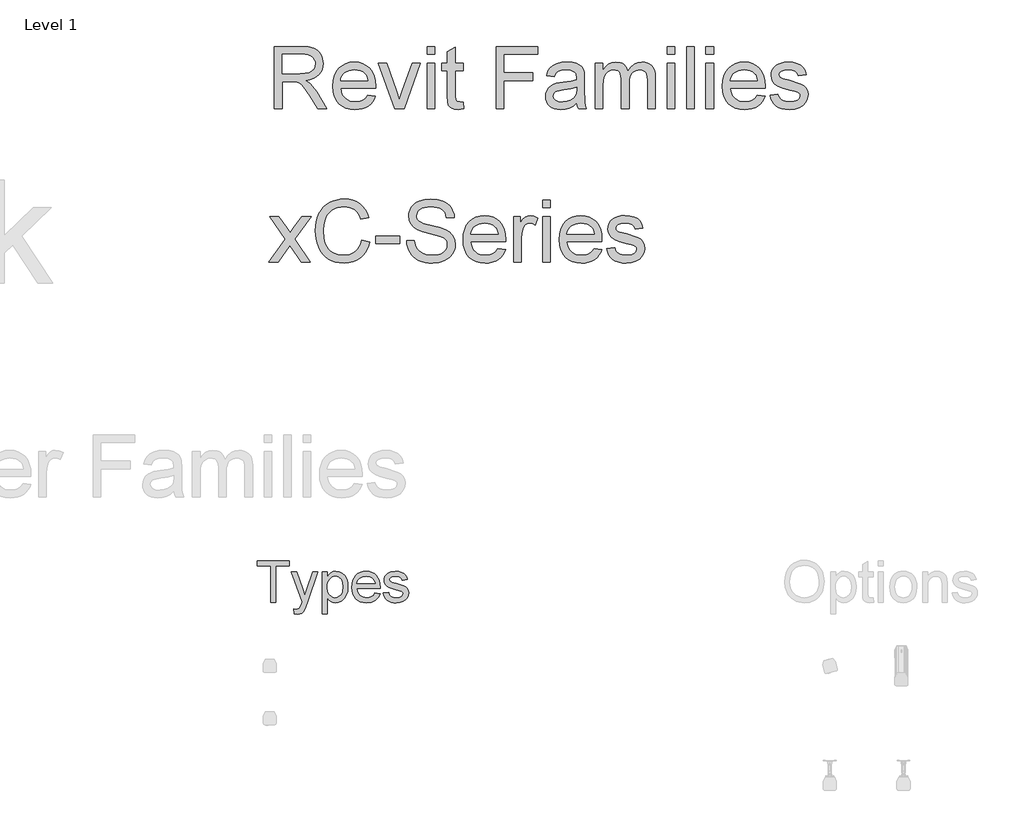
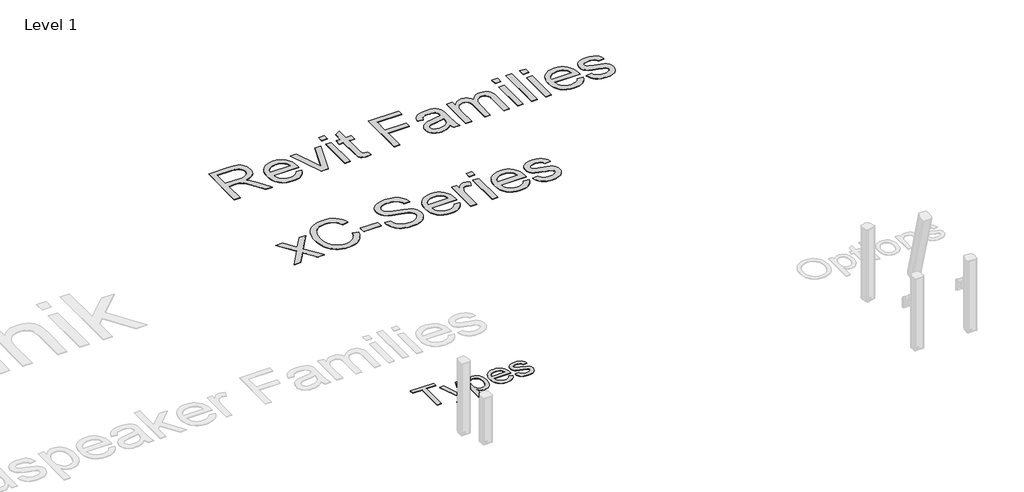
# One storey, part 7 of 8: 2 proxies.
"""IFC4 building model written with IfcOpenShell, lengths in millimetres."""

from ifc_helpers import new_model, si_unit, origin, origin_with_axes, place, context, project, spatial, polyline, outline, extrude, element, save

model = new_model("IFC4")

# Units and contexts
model_context = context("Model", 3, world=origin())
ifc_project = project(units=[si_unit("LENGTHUNIT", "METRE", prefix="MILLI")], contexts=[model_context])

# Site, building, storey
site = spatial("IfcSite", under=ifc_project)
building = spatial("IfcBuilding", under=site)
storey = spatial("IfcBuildingStorey", under=building, Name="Level 1", Elevation=0.0)

# Proxies
placement = place(None, origin())
element("IfcBuildingElementProxy", 1, Name="400mm Arial", ObjectType="400mm Arial", at=placement, inside=storey, context=model_context, shape_type="SweptSolid", body=[
    extrude(outline(polyline([(-11345.9583027, 17351.3054836), (-11345.9583027, 17694.0933624), (-11474.5037572, 17694.0933624), (-11474.5037572, 17743.0630593), (-11168.4431512, 17743.0630593), (-11168.4431512, 17694.0933624), (-11296.9886057, 17694.0933624), (-11296.9886057, 17351.3054836), (-11345.9583027, 17351.3054836)])), origin_with_axes(), (0.0, 0.0, 1.0), 5.0),
    extrude(outline(polyline([(-11119.4734542, 17241.1236654), (-11125.5946663, 17288.2761275), (-11100.7272421, 17283.9721502), (-11087.6479334, 17285.3231209), (-11077.4857648, 17289.3760328), (-11063.2348179, 17304.4399533), (-11049.8446663, 17340.4977184), (-11046.0189088, 17352.3575669), (-11150.0795148, 17639.0024533), (-11098.4317875, 17639.0024533), (-11043.2452345, 17479.2770745), (-11024.0208027, 17415.386923), (-11004.7963709, 17471.8168472), (-10948.0795148, 17639.0024533), (-10896.8143633, 17639.0024533), (-10996.9535679, 17344.4191199), (-11022.9687194, 17280.5289684), (-11036.2871379, 17260.1328983), (-11051.3749694, 17246.0015063), (-11068.9017213, 17237.7522165), (-11089.5369012, 17235.0024533), (-11119.4734542, 17241.1236654)])), origin_with_axes(), (0.0, 0.0, 1.0), 5.0),
    extrude(outline(polyline([(-10856.261333, 17241.1236654), (-10856.261333, 17639.0024533), (-10807.291636, 17639.0024533), (-10807.291636, 17590.9891957), (-10791.3190982, 17614.6730262), (-10773.4336815, 17631.590048), (-10752.5833027, 17641.740261), (-10727.7158785, 17645.1236654), (-10694.5991644, 17640.3892904), (-10665.6429618, 17626.1861654), (-10642.0667307, 17603.3750858), (-10625.0899315, 17572.8168472), (-10614.832119, 17536.7351711), (-10611.4128482, 17497.353779), (-10615.2744722, 17455.4736891), (-10626.8593444, 17418.0171313), (-10645.7968444, 17386.885029), (-10671.7163519, 17363.9783055), (-10701.9039703, 17349.88278), (-10733.6458027, 17345.1842715), (-10756.1579949, 17348.328566), (-10776.2551777, 17357.7614495), (-10793.4591313, 17372.000441), (-10807.291636, 17389.5630593), (-10807.291636, 17241.1236654), (-10856.261333, 17241.1236654)]), holes=[polyline([(-10807.291636, 17492.8585139), (-10801.9953529, 17448.9579457), (-10795.374999, 17431.9572355), (-10786.1065035, 17418.2562411), (-10762.6617828, 17400.1795366), (-10749.2447314, 17395.6603605), (-10734.697886, 17394.1539684), (-10719.9418195, 17395.7141602), (-10706.2796805, 17400.3947355), (-10682.2371853, 17419.1170366), (-10672.6757802, 17433.3141839), (-10665.8462052, 17450.9425574), (-10660.3825451, 17496.4929836), (-10665.7146947, 17540.1544419), (-10672.3798818, 17557.2866625), (-10681.7111436, 17571.2865442), (-10705.1199978, 17589.9371124), (-10718.3846166, 17594.5997544), (-10732.6893633, 17596.1539684), (-10746.9492769, 17594.5011216), (-10760.3663283, 17589.5425811), (-10784.6718444, 17569.7084192), (-10794.5680032, 17554.9882191), (-10801.6366881, 17537.2731682), (-10805.8778991, 17516.5632665), (-10807.291636, 17492.8585139)])]), origin_with_axes(), (0.0, 0.0, 1.0), 5.0),
    extrude(outline(polyline([(-10354.8958027, 17437.0024533), (-10306.8825451, 17430.8812411), (-10314.2441396, 17411.6508316), (-10324.1821427, 17394.7039211), (-10336.6965544, 17380.0405096), (-10351.7873747, 17367.6605972), (-10369.2991822, 17357.8272047), (-10389.0765555, 17350.8033529), (-10435.4279997, 17345.1842715), (-10465.8128837, 17347.6082475), (-10492.8860963, 17354.8801758), (-10516.6476375, 17367.0000563), (-10537.0975072, 17383.9678889), (-10553.5422871, 17405.3114317), (-10565.2885584, 17430.5584429), (-10572.3363212, 17459.7089223), (-10574.6855754, 17492.7628699), (-10572.3124102, 17526.937645), (-10565.1929144, 17557.0595082), (-10553.3270882, 17583.1284594), (-10536.7149315, 17605.1444987), (-10516.3188614, 17622.6353841), (-10493.1012951, 17635.1288737), (-10467.0622326, 17642.6249675), (-10438.2016739, 17645.1236654), (-10410.2706547, 17642.6309452), (-10385.0116881, 17635.1527847), (-10362.4247741, 17622.6891839), (-10342.5099125, 17605.2401427), (-10326.2534317, 17583.2719253), (-10314.6416597, 17557.2507961), (-10307.6745965, 17527.1767549), (-10305.3522421, 17493.0498018), (-10305.6391739, 17479.8509381), (-10525.7158785, 17479.8509381), (-10522.8794379, 17460.3096858), (-10517.2394343, 17443.1953983), (-10508.7958678, 17428.5080759), (-10497.5487383, 17416.2477184), (-10469.1305328, 17399.6774059), (-10434.4715603, 17394.1539684), (-10408.4085868, 17396.7124438), (-10386.4583027, 17404.3878699), (-10368.620708, 17417.6584665), (-10354.8958027, 17437.0024533)]), holes=[polyline([(-10525.7158785, 17528.8206351), (-10354.3219391, 17528.8206351), (-10360.9452819, 17554.6923207), (-10373.9289466, 17573.199423), (-10387.2832317, 17583.2420366), (-10402.4786625, 17590.4153321), (-10438.3929618, 17596.1539684), (-10471.4020764, 17591.5750148), (-10498.6964656, 17577.838154), (-10517.6698321, 17556.4258671), (-10525.7158785, 17528.8206351)])]), origin_with_axes(), (0.0, 0.0, 1.0), 5.0),
    extrude(outline(polyline([(-10274.7461815, 17437.0024533), (-10225.7764845, 17443.1236654), (-10218.0532364, 17422.1776427), (-10203.1088709, 17406.7789684), (-10180.847744, 17397.3102184), (-10151.1742118, 17394.1539684), (-10121.8593444, 17397.0471976), (-10101.2480754, 17405.7268851), (-10089.0534732, 17418.3040631), (-10084.9886057, 17432.8897639), (-10089.0773841, 17445.371298), (-10101.3437194, 17454.8878699), (-10151.7480754, 17468.8518851), (-10225.4895527, 17492.8106919), (-10244.1520764, 17504.8498728), (-10257.6737383, 17520.7865442), (-10265.8871616, 17539.6044893), (-10268.6249694, 17560.2874911), (-10266.4251588, 17579.2608576), (-10259.8257269, 17596.775654), (-10249.4244485, 17612.1384618), (-10235.8190982, 17624.6558624), (-10204.6869959, 17639.1459192), (-10162.5558406, 17645.1236654), (-10130.6824978, 17642.7206114), (-10102.9696663, 17635.5114495), (-10080.6846285, 17624.2015536), (-10065.0946663, 17609.496298), (-10054.7651209, 17590.3077326), (-10048.261333, 17565.5479078), (-10097.23103, 17559.4266957), (-10103.4120196, 17574.8373254), (-10115.6424883, 17586.4461086), (-10134.0419911, 17593.7270035), (-10158.730083, 17596.1539684), (-10186.8494012, 17593.8346029), (-10205.5956133, 17586.8765063), (-10216.1403576, 17576.8338927), (-10219.6552724, 17565.260976), (-10213.8209921, 17551.010029), (-10195.5529997, 17540.2022639), (-10153.3740224, 17529.7770745), (-10081.4976019, 17506.7268851), (-10062.51228, 17495.7039211), (-10048.1178671, 17480.6160896), (-10039.0436483, 17461.4155688), (-10036.0189088, 17438.0545366), (-10039.56969, 17413.9044419), (-10050.2220338, 17391.1890063), (-10067.5694533, 17371.6895982), (-10091.2054618, 17357.1875858), (-10119.7551777, 17348.1851), (-10151.8437194, 17345.1842715), (-10178.1996024, 17346.630886), (-10201.2199031, 17350.9707298), (-10220.9046214, 17358.2038027), (-10237.2537572, 17368.3301048), (-10250.6080423, 17381.3018141), (-10261.308208, 17397.0711086), (-10269.3542544, 17415.6379883), (-10274.7461815, 17437.0024533)])), origin_with_axes(), (0.0, 0.0, 1.0), 5.0),
])
element("IfcBuildingElementProxy", 2, Name="600mm Arial", ObjectType="600mm Arial", at=placement, inside=storey, context=model_context, shape_type="SweptSolid", body=[
    extrude(outline(polyline([(-11309.2935955, 22041.6162982), (-11309.2935955, 22632.385529), (-11054.7262878, 22632.385529), (-10986.3068167, 22628.401154), (-10936.5291724, 22616.448029), (-10917.3194369, 22606.9468271), (-10900.1469609, 22594.3807213), (-10885.0117446, 22578.7497117), (-10871.9137878, 22560.0537982), (-10861.3443768, 22539.2980891), (-10853.7947974, 22517.4876924), (-10847.755134, 22470.7028367), (-10850.2566364, 22440.3602886), (-10857.7611436, 22412.5057213), (-10870.2686556, 22387.1391347), (-10887.7791724, 22364.260529), (-10910.5180547, 22344.6000722), (-10938.7106628, 22328.8879328), (-10972.356997, 22317.1241107), (-11011.4570571, 22309.3086059), (-10987.1181148, 22293.4071636), (-10969.4859032, 22277.7220674), (-10909.630134, 22201.7124521), (-10811.1205186, 22041.6162982), (-10896.9378263, 22041.6162982), (-10973.8128263, 22164.0682213), (-11029.3416724, 22245.1259136), (-11049.9847013, 22268.7617309), (-11068.3560955, 22283.4191828), (-11103.4762878, 22297.4816828), (-11146.3128263, 22300.0778367), (-11235.4474417, 22300.0778367), (-11235.4474417, 22041.6162982), (-11309.2935955, 22041.6162982)]), holes=[polyline([(-11235.4474417, 22373.9239905), (-11070.1589801, 22373.9239905), (-11022.6890282, 22376.5381732), (-10985.8560955, 22384.3807213), (-10958.1277301, 22397.9744713), (-10937.9714801, 22417.8422597), (-10925.6938359, 22441.8747117), (-10921.6012878, 22467.9624521), (-10923.5529104, 22486.8476684), (-10929.4077782, 22503.9840867), (-10939.1658912, 22519.3717069), (-10952.8272494, 22533.010529), (-10970.7073575, 22544.1793992), (-10993.1217205, 22552.1571636), (-11020.0703383, 22556.9438222), (-11051.5532109, 22558.5393751), (-11235.4474417, 22558.5393751), (-11235.4474417, 22373.9239905)])]), origin_with_axes(), (0.0, 0.0, 1.0), 5.0),
    extrude(outline(polyline([(-10424.005134, 22170.8470674), (-10351.6012878, 22161.6162982), (-10362.7025498, 22132.6168992), (-10377.6890282, 22107.0610097), (-10396.5607229, 22084.9486299), (-10419.317634, 22066.2797597), (-10445.7253864, 22051.4510338), (-10475.5496051, 22040.8590867), (-10508.7902902, 22034.5039184), (-10545.4474417, 22032.385529), (-10591.2677542, 22036.0408775), (-10632.0940763, 22047.0069232), (-10667.926408, 22065.283666), (-10698.7647494, 22090.8711059), (-10723.5634273, 22123.0571035), (-10741.2767686, 22161.1295194), (-10751.9047734, 22205.0883535), (-10755.4474417, 22254.9336059), (-10751.8687157, 22306.4690626), (-10741.1325378, 22351.8927405), (-10723.238908, 22391.2046396), (-10698.1878263, 22424.4047597), (-10667.4306148, 22450.7809617), (-10632.4185955, 22469.6211059), (-10593.1517686, 22480.9251924), (-10549.630134, 22484.6932213), (-10507.5102422, 22480.9342069), (-10469.4197974, 22469.6571636), (-10435.3587998, 22450.8620915), (-10405.3272494, 22424.5489905), (-10380.8125258, 22391.4209857), (-10363.302009, 22352.1812021), (-10352.7956989, 22306.8296396), (-10349.2935955, 22255.3662982), (-10349.7262878, 22235.4624521), (-10681.6012878, 22235.4624521), (-10677.3239441, 22205.994303), (-10668.8188359, 22180.1860097), (-10656.0859633, 22158.0375722), (-10639.1253263, 22139.5489905), (-10618.8744248, 22124.9726684), (-10596.270759, 22114.5610097), (-10571.3143287, 22108.3140146), (-10544.005134, 22106.2316828), (-10504.7022494, 22110.0898559), (-10471.6012878, 22121.6643751), (-10444.7022494, 22141.6763944), (-10424.005134, 22170.8470674)]), holes=[polyline([(-10681.6012878, 22309.3086059), (-10423.1397494, 22309.3086059), (-10433.1277301, 22348.323029), (-10441.7184753, 22363.6655771), (-10452.7070571, 22376.2316828), (-10472.8452782, 22391.3759136), (-10495.7599417, 22402.1932213), (-10521.4510474, 22408.6836059), (-10549.9185955, 22410.8470674), (-10575.8846412, 22409.1208054), (-10599.6962398, 22403.9420194), (-10621.3533912, 22395.3107093), (-10640.8560955, 22383.2268751), (-10657.2217806, 22368.2494112), (-10669.4678744, 22350.9372117), (-10677.5943768, 22331.2902766), (-10681.6012878, 22309.3086059)])]), origin_with_axes(), (0.0, 0.0, 1.0), 5.0),
    extrude(outline(polyline([(-10169.005134, 22041.6162982), (-10321.6012878, 22475.4624521), (-10243.4282109, 22475.4624521), (-10150.9762878, 22215.5586059), (-10123.1397494, 22128.1547597), (-10095.880134, 22210.6547597), (-10002.8512878, 22475.4624521), (-9924.6782109, 22475.4624521), (-10075.3993648, 22041.6162982), (-10169.005134, 22041.6162982)])), origin_with_axes(), (0.0, 0.0, 1.0), 5.0),
    extrude(outline(polyline([(-9860.0628263, 22041.6162982), (-9860.0628263, 22475.4624521), (-9786.2166724, 22475.4624521), (-9786.2166724, 22041.6162982), (-9860.0628263, 22041.6162982)])), origin_with_axes(), (0.0, 0.0, 1.0), 5.0),
    extrude(outline(polyline([(-9860.0628263, 22558.5393751), (-9860.0628263, 22632.385529), (-9786.2166724, 22632.385529), (-9786.2166724, 22558.5393751), (-9860.0628263, 22558.5393751)])), origin_with_axes(), (0.0, 0.0, 1.0), 5.0),
    extrude(outline(polyline([(-9518.5243648, 22103.2028367), (-9509.2935955, 22039.4528367), (-9564.5339801, 22032.385529), (-9599.9786917, 22035.4504328), (-9626.4089801, 22044.6451444), (-9645.0868648, 22058.8158174), (-9657.2743648, 22076.8086059), (-9663.9810955, 22107.7100482), (-9666.2166724, 22160.6066828), (-9666.2166724, 22401.6162982), (-9721.6012878, 22401.6162982), (-9721.6012878, 22475.4624521), (-9666.2166724, 22475.4624521), (-9666.2166724, 22580.8951444), (-9592.3705186, 22624.3086059), (-9592.3705186, 22475.4624521), (-9518.5243648, 22475.4624521), (-9518.5243648, 22401.6162982), (-9592.3705186, 22401.6162982), (-9592.3705186, 22162.7701444), (-9588.4762878, 22124.6932213), (-9575.8560955, 22111.2076444), (-9565.2010474, 22107.4756732), (-9550.6878263, 22106.2316828), (-9518.5243648, 22103.2028367)])), origin_with_axes(), (0.0, 0.0, 1.0), 5.0),
    extrude(outline(polyline([(-9204.6782109, 22041.6162982), (-9204.6782109, 22632.385529), (-8807.755134, 22632.385529), (-8807.755134, 22558.5393751), (-9130.8320571, 22558.5393751), (-9130.8320571, 22383.1547597), (-8853.9089801, 22383.1547597), (-8853.9089801, 22309.3086059), (-9130.8320571, 22309.3086059), (-9130.8320571, 22041.6162982), (-9204.6782109, 22041.6162982)])), origin_with_axes(), (0.0, 0.0, 1.0), 5.0),
    extrude(outline(polyline([(-8438.5243648, 22097.0009136), (-8473.8068167, 22066.7485097), (-8510.1349417, 22046.9528367), (-8548.3380667, 22036.0273559), (-8589.2455186, 22032.385529), (-8622.1256268, 22034.5760338), (-8650.958259, 22041.1475482), (-8675.7434152, 22052.1000722), (-8696.4810955, 22067.4336059), (-8712.855795, 22086.1745915), (-8724.552009, 22107.3494713), (-8731.5697373, 22130.9582453), (-8733.9089801, 22157.0009136), (-8730.3753263, 22187.6138944), (-8719.7743648, 22215.4143751), (-8703.4222013, 22239.2124521), (-8682.6349417, 22257.8182213), (-8658.2058551, 22271.8807213), (-8630.9282109, 22282.0489905), (-8567.0339801, 22293.1547597), (-8491.5291724, 22304.8374521), (-8438.9570571, 22318.5393751), (-8438.5243648, 22334.9816828), (-8443.6084994, 22367.9384136), (-8449.9636676, 22380.1439424), (-8458.8609032, 22389.5009136), (-8474.239509, 22398.8398559), (-8492.9714801, 22405.510529), (-8540.4955186, 22410.8470674), (-8584.4859032, 22407.2953847), (-8615.2070571, 22396.6403367), (-8636.1565763, 22376.9348078), (-8650.8320571, 22346.2316828), (-8724.6782109, 22355.4624521), (-8711.8597013, 22395.8470674), (-8692.7310955, 22427.5778367), (-8665.5075378, 22451.8446636), (-8628.4041724, 22469.8374521), (-8583.0255667, 22480.979279), (-8530.9762878, 22484.6932213), (-8481.0544128, 22481.4119713), (-8441.4810955, 22471.5682213), (-8411.6433551, 22456.7665386), (-8390.9282109, 22438.6114905), (-8377.1902301, 22416.1655771), (-8368.2839801, 22388.4912982), (-8364.6782109, 22323.8759136), (-8364.6782109, 22232.0009136), (-8360.9282109, 22103.7076444), (-8355.3753263, 22071.994904), (-8346.2166724, 22041.6162982), (-8420.0628263, 22041.6162982), (-8431.8897494, 22067.2893751), (-8438.5243648, 22097.0009136)]), holes=[polyline([(-8438.5243648, 22244.6932213), (-8488.1397494, 22232.3975482), (-8557.6589801, 22222.0489905), (-8621.192634, 22210.0778367), (-8637.7250859, 22201.8927405), (-8649.9666724, 22190.6066828), (-8657.5387878, 22177.0850482), (-8660.0628263, 22162.1932213), (-8654.5640282, 22140.2340867), (-8638.067634, 22122.2412982), (-8610.9342205, 22110.2340867), (-8573.5243648, 22106.2316828), (-8533.8609032, 22110.6487501), (-8498.8128263, 22123.8999521), (-8470.3993648, 22143.4251924), (-8450.6397494, 22166.6643751), (-8441.8777301, 22190.6066828), (-8438.9570571, 22223.7797597), (-8438.5243648, 22244.6932213)])]), origin_with_axes(), (0.0, 0.0, 1.0), 5.0),
    extrude(outline(polyline([(-8263.1397494, 22041.6162982), (-8263.1397494, 22475.4624521), (-8189.2935955, 22475.4624521), (-8189.2935955, 22404.0682213), (-8167.0820571, 22436.8626924), (-8138.5243648, 22462.5537982), (-8104.5940763, 22479.1583655), (-8066.2647494, 22484.6932213), (-8025.1950378, 22479.0501924), (-8007.7160715, 22471.9964064), (-7992.2743648, 22462.1211059), (-7967.6830186, 22435.0237501), (-7951.6012878, 22398.8759136), (-7924.6842205, 22436.4209857), (-7893.9810955, 22463.2388944), (-7859.4919128, 22479.3296396), (-7821.2166724, 22484.6932213), (-7791.653872, 22482.4621516), (-7765.7058551, 22475.7689424), (-7743.372622, 22464.6135939), (-7724.6541724, 22448.9961059), (-7709.856997, 22428.73619), (-7699.2875859, 22403.6535578), (-7692.9459393, 22373.7482093), (-7690.8320571, 22339.0201444), (-7690.8320571, 22041.6162982), (-7764.6782109, 22041.6162982), (-7764.6782109, 22307.2893751), (-7766.3909513, 22344.1223078), (-7771.5291724, 22368.948029), (-7781.1565763, 22385.9492309), (-7796.3368648, 22399.3086059), (-7815.8621051, 22407.9624521), (-7838.5243648, 22410.8470674), (-7859.4513479, 22408.9991107), (-7878.5303744, 22403.4552405), (-7895.7614441, 22394.2154569), (-7911.1445571, 22381.2797597), (-7923.7962998, 22364.2695434), (-7932.833259, 22342.8062021), (-7938.2554345, 22316.8897357), (-7940.0628263, 22286.5201444), (-7940.0628263, 22041.6162982), (-8013.9089801, 22041.6162982), (-8013.9089801, 22315.510529), (-8018.1818167, 22357.2653367), (-8031.0003263, 22387.0489905), (-8040.9116845, 22397.4606492), (-8053.5544128, 22404.8975482), (-8068.9285114, 22409.3596876), (-8087.0339801, 22410.8470674), (-8115.4834994, 22406.8807213), (-8141.6974417, 22394.9816828), (-8163.3320571, 22375.4384136), (-8178.0435955, 22348.5393751), (-8186.4810955, 22311.2196636), (-8189.2935955, 22260.4143751), (-8189.2935955, 22041.6162982), (-8263.1397494, 22041.6162982)])), origin_with_axes(), (0.0, 0.0, 1.0), 5.0),
    extrude(outline(polyline([(-7580.0628263, 22041.6162982), (-7580.0628263, 22475.4624521), (-7506.2166724, 22475.4624521), (-7506.2166724, 22041.6162982), (-7580.0628263, 22041.6162982)])), origin_with_axes(), (0.0, 0.0, 1.0), 5.0),
    extrude(outline(polyline([(-7580.0628263, 22558.5393751), (-7580.0628263, 22632.385529), (-7506.2166724, 22632.385529), (-7506.2166724, 22558.5393751), (-7580.0628263, 22558.5393751)])), origin_with_axes(), (0.0, 0.0, 1.0), 5.0),
    extrude(outline(polyline([(-7395.4474417, 22041.6162982), (-7395.4474417, 22632.385529), (-7321.6012878, 22632.385529), (-7321.6012878, 22041.6162982), (-7395.4474417, 22041.6162982)])), origin_with_axes(), (0.0, 0.0, 1.0), 5.0),
    extrude(outline(polyline([(-7210.8320571, 22041.6162982), (-7210.8320571, 22475.4624521), (-7136.9859032, 22475.4624521), (-7136.9859032, 22041.6162982), (-7210.8320571, 22041.6162982)])), origin_with_axes(), (0.0, 0.0, 1.0), 5.0),
    extrude(outline(polyline([(-7210.8320571, 22558.5393751), (-7210.8320571, 22632.385529), (-7136.9859032, 22632.385529), (-7136.9859032, 22558.5393751), (-7210.8320571, 22558.5393751)])), origin_with_axes(), (0.0, 0.0, 1.0), 5.0),
    extrude(outline(polyline([(-6722.4666724, 22170.8470674), (-6650.0628263, 22161.6162982), (-6661.1640883, 22132.6168992), (-6676.1505667, 22107.0610097), (-6695.0222614, 22084.9486299), (-6717.7791724, 22066.2797597), (-6744.1869248, 22051.4510338), (-6774.0111436, 22040.8590867), (-6807.2518287, 22034.5039184), (-6843.9089801, 22032.385529), (-6889.7292926, 22036.0408775), (-6930.5556148, 22047.0069232), (-6966.3879465, 22065.283666), (-6997.2262878, 22090.8711059), (-7022.0249657, 22123.0571035), (-7039.7383071, 22161.1295194), (-7050.3663119, 22205.0883535), (-7053.9089801, 22254.9336059), (-7050.3302542, 22306.4690626), (-7039.5940763, 22351.8927405), (-7021.7004465, 22391.2046396), (-6996.6493648, 22424.4047597), (-6965.8921532, 22450.7809617), (-6930.880134, 22469.6211059), (-6891.6133071, 22480.9251924), (-6848.0916724, 22484.6932213), (-6805.9717806, 22480.9342069), (-6767.8813359, 22469.6571636), (-6733.8203383, 22450.8620915), (-6703.7887878, 22424.5489905), (-6679.2740643, 22391.4209857), (-6661.7635474, 22352.1812021), (-6651.2572373, 22306.8296396), (-6647.755134, 22255.3662982), (-6648.1878263, 22235.4624521), (-6980.0628263, 22235.4624521), (-6975.7854825, 22205.994303), (-6967.2803744, 22180.1860097), (-6954.5475018, 22158.0375722), (-6937.5868648, 22139.5489905), (-6917.3359633, 22124.9726684), (-6894.7322974, 22114.5610097), (-6869.7758672, 22108.3140146), (-6842.4666724, 22106.2316828), (-6803.1637878, 22110.0898559), (-6770.0628263, 22121.6643751), (-6743.1637878, 22141.6763944), (-6722.4666724, 22170.8470674)]), holes=[polyline([(-6980.0628263, 22309.3086059), (-6721.6012878, 22309.3086059), (-6731.5892686, 22348.323029), (-6740.1800138, 22363.6655771), (-6751.1685955, 22376.2316828), (-6771.3068167, 22391.3759136), (-6794.2214801, 22402.1932213), (-6819.9125859, 22408.6836059), (-6848.380134, 22410.8470674), (-6874.3461797, 22409.1208054), (-6898.1577782, 22403.9420194), (-6919.8149297, 22395.3107093), (-6939.317634, 22383.2268751), (-6955.6833191, 22368.2494112), (-6967.9294128, 22350.9372117), (-6976.0559152, 22331.2902766), (-6980.0628263, 22309.3086059)])]), origin_with_axes(), (0.0, 0.0, 1.0), 5.0),
    extrude(outline(polyline([(-6601.6012878, 22170.8470674), (-6527.755134, 22180.0778367), (-6523.2929946, 22163.2388944), (-6516.1084994, 22148.4912982), (-6506.2016484, 22135.8350482), (-6493.5724417, 22125.2701444), (-6478.1848215, 22116.9408174), (-6460.0027301, 22110.9912982), (-6415.255134, 22106.2316828), (-6371.0484032, 22110.5946636), (-6353.8669128, 22116.0483896), (-6339.9666724, 22123.6836059), (-6321.5772494, 22142.6499521), (-6315.4474417, 22164.6451444), (-6316.988908, 22174.6150963), (-6321.6133071, 22183.4672597), (-6340.1109032, 22197.8182213), (-6367.7671532, 22207.1932213), (-6416.1205186, 22218.8759136), (-6483.5123455, 22238.3650963), (-6527.3224417, 22255.0057213), (-6555.4654705, 22273.1607694), (-6575.8560955, 22297.1932213), (-6588.2419128, 22325.5706251), (-6592.3705186, 22356.760529), (-6589.0532109, 22385.3723078), (-6579.1012878, 22411.7845674), (-6563.4161917, 22434.9516347), (-6542.8993648, 22453.8278367), (-6522.5087398, 22465.7088463), (-6495.9522494, 22475.6787982), (-6465.2491244, 22482.4396155), (-6432.4185955, 22484.6932213), (-6384.3536917, 22481.0694232), (-6342.5628263, 22470.198029), (-6308.9570571, 22453.1427405), (-6285.4474417, 22430.9672597), (-6269.8705186, 22402.0309617), (-6260.0628263, 22364.6932213), (-6333.9089801, 22355.4624521), (-6343.2298936, 22378.7016347), (-6361.6734032, 22396.2076444), (-6389.4197974, 22407.1872117), (-6426.6493648, 22410.8470674), (-6469.0532109, 22407.3494713), (-6497.3224417, 22396.8566828), (-6513.223884, 22381.7124521), (-6518.5243648, 22364.260529), (-6516.3248455, 22352.9023559), (-6509.7262878, 22342.7701444), (-6498.4402301, 22333.7196636), (-6482.1782109, 22326.4720674), (-6418.5724417, 22310.7509136), (-6310.1830186, 22275.9912982), (-6281.5532109, 22259.3687021), (-6259.8464801, 22236.6162982), (-6246.1625859, 22207.6619713), (-6241.6012878, 22172.4336059), (-6246.9558551, 22136.0153367), (-6263.0195571, 22101.760529), (-6289.1794128, 22072.3554809), (-6324.8224417, 22050.4864905), (-6367.8753263, 22036.9107694), (-6416.2647494, 22032.385529), (-6456.0093407, 22034.5670194), (-6490.723884, 22041.1114905), (-6520.4083792, 22052.0189424), (-6545.0628263, 22067.2893751), (-6565.2010474, 22086.8506732), (-6581.3368648, 22110.6307213), (-6593.4702782, 22138.6295194), (-6601.6012878, 22170.8470674)])), origin_with_axes(), (0.0, 0.0, 1.0), 5.0),
    extrude(outline(polyline([(-11364.6782109, 20583.1547597), (-11206.8897494, 20801.2316828), (-11355.4474417, 21017.0009136), (-11266.6012878, 21017.0009136), (-11194.9185955, 20913.1547597), (-11161.4570571, 20864.1162982), (-11132.4666724, 20904.2124521), (-11050.8320571, 21017.0009136), (-10961.9859032, 21017.0009136), (-11118.0435955, 20801.2316828), (-10967.755134, 20583.1547597), (-11056.6012878, 20583.1547597), (-11147.0339801, 20714.260529), (-11163.6205186, 20738.2028367), (-11275.8320571, 20583.1547597), (-11364.6782109, 20583.1547597)])), origin_with_axes(), (0.0, 0.0, 1.0), 5.0),
    extrude(outline(polyline([(-10478.5243648, 20793.1547597), (-10404.6782109, 20774.1162982), (-10419.2905907, 20728.1923198), (-10438.7527301, 20688.0646155), (-10463.0646292, 20653.7331852), (-10492.2262878, 20625.198029), (-10525.5796532, 20602.7656372), (-10562.4666724, 20586.7425001), (-10602.8873455, 20577.1286179), (-10646.8416724, 20573.9239905), (-10691.8732229, 20576.3488703), (-10732.4967205, 20583.6235097), (-10768.7121652, 20595.7479088), (-10800.5195571, 20612.7220674), (-10828.3560955, 20634.2935819), (-10852.6589801, 20660.2100482), (-10873.4282109, 20690.4714665), (-10890.6637878, 20725.0778367), (-10904.1989441, 20762.5327646), (-10913.8669128, 20801.3398559), (-10919.6676941, 20841.4991107), (-10921.6012878, 20883.010529), (-10919.4152902, 20927.5507934), (-10912.8572974, 20969.1523559), (-10901.9273095, 21007.8152165), (-10886.6253263, 21043.5393751), (-10867.293896, 21075.7343872), (-10844.2755667, 21103.8098078), (-10817.5703383, 21127.7656372), (-10787.1782109, 21147.6018751), (-10754.1313359, 21163.1562622), (-10719.4618648, 21174.2665386), (-10683.1697974, 21180.9327045), (-10645.255134, 21183.1547597), (-10603.0180547, 21180.2791588), (-10564.2875859, 21171.6523559), (-10529.0637277, 21157.2743511), (-10497.3464801, 21137.1451444), (-10469.6586797, 21111.7965867), (-10446.5231628, 21081.760529), (-10427.9399297, 21047.0369713), (-10413.9089801, 21007.6259136), (-10487.755134, 20990.0297597), (-10499.3837398, 21019.0697237), (-10513.3560955, 21043.8819232), (-10529.6722013, 21064.4663583), (-10548.3320571, 21080.823029), (-10569.4438359, 21093.2854689), (-10593.1157109, 21102.1872117), (-10619.3476821, 21107.5282573), (-10648.1397494, 21109.3086059), (-10681.2677542, 21107.3344472), (-10711.5652301, 21101.4119713), (-10739.0321773, 21091.541178), (-10763.6685955, 21077.7220674), (-10785.1634873, 21060.5766347), (-10803.2058551, 21040.7268751), (-10817.7956989, 21018.1727886), (-10828.9330186, 20992.9143751), (-10843.0496051, 20938.8638944), (-10847.755134, 20883.1547597), (-10842.1842205, 20814.9336059), (-10835.2205787, 20784.2845674), (-10825.4714801, 20755.9432213), (-10812.7791724, 20730.4729689), (-10796.9859032, 20708.4372117), (-10778.0916724, 20689.8359497), (-10756.0964801, 20674.6691828), (-10732.0685354, 20662.9008535), (-10707.0760474, 20654.494904), (-10681.1190162, 20649.4513343), (-10654.1974417, 20647.7701444), (-10622.0925739, 20650.0598078), (-10592.5568167, 20656.9287982), (-10565.59017, 20668.3771155), (-10541.192634, 20684.4047597), (-10519.9411316, 20704.9396155), (-10502.4125859, 20729.9095674), (-10488.606997, 20759.3146155), (-10478.5243648, 20793.1547597)])), origin_with_axes(), (0.0, 0.0, 1.0), 5.0),
    extrude(outline(polyline([(-10349.2935955, 20758.5393751), (-10349.2935955, 20832.385529), (-10118.5243648, 20832.385529), (-10118.5243648, 20758.5393751), (-10349.2935955, 20758.5393751)])), origin_with_axes(), (0.0, 0.0, 1.0), 5.0),
    extrude(outline(polyline([(-10053.9089801, 20786.2316828), (-9980.0628263, 20786.2316828), (-9971.5892686, 20745.2521155), (-9956.2647494, 20712.3134136), (-9932.3584994, 20686.1715867), (-9898.1397494, 20665.5826444), (-9856.3128263, 20652.2232694), (-9809.5820571, 20647.7701444), (-9768.4402301, 20651.1415386), (-9732.4185955, 20661.2557213), (-9703.2298936, 20677.2653367), (-9682.5868648, 20698.323029), (-9670.3092205, 20722.4997117), (-9666.2166724, 20747.8662982), (-9669.2815763, 20772.5838463), (-9678.4762878, 20793.948029), (-9697.1541724, 20812.1751924), (-9728.6685955, 20827.4816828), (-9836.192634, 20855.6787982), (-9906.7755667, 20874.338654), (-9951.9378263, 20892.0970674), (-9988.6986436, 20916.9408174), (-10014.7503263, 20947.0489905), (-10030.2731628, 20981.7725482), (-10035.4474417, 21020.4624521), (-10033.8473816, 21042.4531372), (-10029.0472013, 21063.713654), (-10021.0469008, 21084.2440025), (-10009.8464801, 21104.0441828), (-9995.5721412, 21122.307404), (-9978.3500859, 21138.2268751), (-9958.1803143, 21151.8025963), (-9935.0628263, 21163.0345674), (-9883.1036917, 21178.1247117), (-9825.5916724, 21183.1547597), (-9763.2839801, 21177.8903367), (-9708.7647494, 21162.0970674), (-9684.9125859, 21150.3332453), (-9663.9810955, 21136.0994713), (-9645.9702782, 21119.3957453), (-9630.880134, 21100.2220674), (-9618.8278503, 21079.1373319), (-9609.9306148, 21056.7004328), (-9604.1884273, 21032.9113703), (-9601.6012878, 21007.7701444), (-9675.4474417, 21007.7701444), (-9680.3873455, 21031.3338463), (-9689.005134, 21051.8326444), (-9701.3008071, 21069.2665386), (-9717.2743648, 21083.635529), (-9737.223283, 21094.8675001), (-9761.4450378, 21102.8903367), (-9789.9396292, 21107.7040386), (-9822.7070571, 21109.3086059), (-9856.520158, 21107.7220674), (-9885.411384, 21102.9624521), (-9909.3807349, 21095.0297597), (-9928.4282109, 21083.9239905), (-9942.9414321, 21070.5736299), (-9953.3080186, 21055.9071636), (-9959.5279705, 21039.9245915), (-9961.6012878, 21022.6259136), (-9955.723884, 20994.2485097), (-9938.0916724, 20971.4239905), (-9921.9017686, 20961.2737501), (-9896.4089801, 20951.0153367), (-9817.5147494, 20930.1739905), (-9736.0964801, 20910.3783174), (-9686.8416724, 20893.1066828), (-9644.7443167, 20866.3158174), (-9628.4687758, 20850.5676203), (-9615.3753263, 20833.2509136), (-9605.3107229, 20814.4558415), (-9598.1217205, 20794.2725482), (-9592.3705186, 20749.7412982), (-9594.0246652, 20726.6418391), (-9598.9871051, 20704.2184617), (-9607.2578383, 20682.471166), (-9618.8368648, 20661.3999521), (-9633.5213599, 20641.8206251), (-9651.1084994, 20624.5489905), (-9671.598283, 20609.5850482), (-9694.9907109, 20596.9287982), (-9720.6051941, 20586.8641948), (-9747.7611436, 20579.6751924), (-9806.6974417, 20573.9239905), (-9844.4723816, 20575.4744713), (-9879.0472013, 20580.1259136), (-9910.4219008, 20587.8783174), (-9938.5964801, 20598.7316828), (-9963.7422133, 20612.7040386), (-9986.0303744, 20629.8134136), (-10005.4609633, 20650.0598078), (-10022.0339801, 20673.4432213), (-10035.3843407, 20699.2064424), (-10045.1469609, 20726.5922597), (-10051.3218407, 20755.6006732), (-10053.9089801, 20786.2316828)])), origin_with_axes(), (0.0, 0.0, 1.0), 5.0),
    extrude(outline(polyline([(-9187.0820571, 20712.385529), (-9114.6782109, 20703.1547597), (-9125.7794729, 20674.1553607), (-9140.7659513, 20648.5994713), (-9159.637646, 20626.4870915), (-9182.3945571, 20607.8182213), (-9208.8023095, 20592.9894953), (-9238.6265282, 20582.3975482), (-9271.8672133, 20576.0423799), (-9308.5243648, 20573.9239905), (-9354.3446773, 20577.5793391), (-9395.1709994, 20588.5453847), (-9431.0033311, 20606.8221275), (-9461.8416724, 20632.4095674), (-9486.6403503, 20664.595565), (-9504.3536917, 20702.6679809), (-9514.9816965, 20746.626815), (-9518.5243648, 20796.4720674), (-9514.9456388, 20848.0075242), (-9504.2094609, 20893.4312021), (-9486.3158311, 20932.7431011), (-9461.2647494, 20965.9432213), (-9430.5075378, 20992.3194232), (-9395.4955186, 21011.1595674), (-9356.2286917, 21022.463654), (-9312.7070571, 21026.2316828), (-9270.5871652, 21022.4726684), (-9232.4967205, 21011.1956251), (-9198.4357229, 20992.400553), (-9168.4041724, 20966.0874521), (-9143.8894489, 20932.9594472), (-9126.3789321, 20893.7196636), (-9115.872622, 20848.3681011), (-9112.3705186, 20796.9047597), (-9112.8032109, 20777.0009136), (-9444.6782109, 20777.0009136), (-9440.4008672, 20747.5327646), (-9431.895759, 20721.7244713), (-9419.1628864, 20699.5760338), (-9402.2022494, 20681.0874521), (-9381.9513479, 20666.5111299), (-9359.3476821, 20656.0994713), (-9334.3912518, 20649.8524761), (-9307.0820571, 20647.7701444), (-9267.7791724, 20651.6283174), (-9234.6782109, 20663.2028367), (-9207.7791724, 20683.2148559), (-9187.0820571, 20712.385529)]), holes=[polyline([(-9444.6782109, 20850.8470674), (-9186.2166724, 20850.8470674), (-9196.2046532, 20889.8614905), (-9204.7953984, 20905.2040386), (-9215.7839801, 20917.7701444), (-9235.9222013, 20932.9143751), (-9258.8368648, 20943.7316828), (-9284.5279705, 20950.2220674), (-9312.9955186, 20952.385529), (-9338.9615643, 20950.659267), (-9362.7731628, 20945.4804809), (-9384.4303143, 20936.8491708), (-9403.9330186, 20924.7653367), (-9420.2987037, 20909.7878727), (-9432.5447974, 20892.4756732), (-9440.6712998, 20872.8287381), (-9444.6782109, 20850.8470674)])]), origin_with_axes(), (0.0, 0.0, 1.0), 5.0),
    extrude(outline(polyline([(-9038.5243648, 20583.1547597), (-9038.5243648, 21017.0009136), (-8973.9089801, 21017.0009136), (-8973.9089801, 20952.8182213), (-8950.0387878, 20990.0297597), (-8928.0435955, 21011.9528367), (-8905.9762878, 21022.6619713), (-8881.8897494, 21026.2316828), (-8845.1109032, 21020.5345674), (-8807.755134, 21003.4432213), (-8832.4185955, 20937.2412982), (-8858.380134, 20948.5994713), (-8884.3416724, 20952.385529), (-8906.3909513, 20948.7437021), (-8926.0964801, 20937.8182213), (-8942.0159513, 20920.4384136), (-8952.7070571, 20897.4336059), (-8961.6854224, 20856.1836059), (-8964.6782109, 20811.1836059), (-8964.6782109, 20583.1547597), (-9038.5243648, 20583.1547597)])), origin_with_axes(), (0.0, 0.0, 1.0), 5.0),
    extrude(outline(polyline([(-8761.6012878, 20583.1547597), (-8761.6012878, 21017.0009136), (-8687.755134, 21017.0009136), (-8687.755134, 20583.1547597), (-8761.6012878, 20583.1547597)])), origin_with_axes(), (0.0, 0.0, 1.0), 5.0),
    extrude(outline(polyline([(-8761.6012878, 21100.0778367), (-8761.6012878, 21173.9239905), (-8687.755134, 21173.9239905), (-8687.755134, 21100.0778367), (-8761.6012878, 21100.0778367)])), origin_with_axes(), (0.0, 0.0, 1.0), 5.0),
    extrude(outline(polyline([(-8273.2359032, 20712.385529), (-8200.8320571, 20703.1547597), (-8211.9333191, 20674.1553607), (-8226.9197974, 20648.5994713), (-8245.7914922, 20626.4870915), (-8268.5484032, 20607.8182213), (-8294.9561556, 20592.9894953), (-8324.7803744, 20582.3975482), (-8358.0210595, 20576.0423799), (-8394.6782109, 20573.9239905), (-8440.4985234, 20577.5793391), (-8481.3248455, 20588.5453847), (-8517.1571773, 20606.8221275), (-8547.9955186, 20632.4095674), (-8572.7941965, 20664.595565), (-8590.5075378, 20702.6679809), (-8601.1355426, 20746.626815), (-8604.6782109, 20796.4720674), (-8601.0994849, 20848.0075242), (-8590.3633071, 20893.4312021), (-8572.4696773, 20932.7431011), (-8547.4185955, 20965.9432213), (-8516.661384, 20992.3194232), (-8481.6493648, 21011.1595674), (-8442.3825378, 21022.463654), (-8398.8609032, 21026.2316828), (-8356.7410114, 21022.4726684), (-8318.6505667, 21011.1956251), (-8284.5895691, 20992.400553), (-8254.5580186, 20966.0874521), (-8230.043295, 20932.9594472), (-8212.5327782, 20893.7196636), (-8202.0264681, 20848.3681011), (-8198.5243648, 20796.9047597), (-8198.9570571, 20777.0009136), (-8530.8320571, 20777.0009136), (-8526.5547133, 20747.5327646), (-8518.0496051, 20721.7244713), (-8505.3167325, 20699.5760338), (-8488.3560955, 20681.0874521), (-8468.1051941, 20666.5111299), (-8445.5015282, 20656.0994713), (-8420.5450979, 20649.8524761), (-8393.2359032, 20647.7701444), (-8353.9330186, 20651.6283174), (-8320.8320571, 20663.2028367), (-8293.9330186, 20683.2148559), (-8273.2359032, 20712.385529)]), holes=[polyline([(-8530.8320571, 20850.8470674), (-8272.3705186, 20850.8470674), (-8282.3584994, 20889.8614905), (-8290.9492446, 20905.2040386), (-8301.9378263, 20917.7701444), (-8322.0760474, 20932.9143751), (-8344.9907109, 20943.7316828), (-8370.6818167, 20950.2220674), (-8399.1493648, 20952.385529), (-8425.1154104, 20950.659267), (-8448.927009, 20945.4804809), (-8470.5841604, 20936.8491708), (-8490.0868648, 20924.7653367), (-8506.4525498, 20909.7878727), (-8518.6986436, 20892.4756732), (-8526.825146, 20872.8287381), (-8530.8320571, 20850.8470674)])]), origin_with_axes(), (0.0, 0.0, 1.0), 5.0),
    extrude(outline(polyline([(-8152.3705186, 20712.385529), (-8078.5243648, 20721.6162982), (-8074.0622253, 20704.7773559), (-8066.8777301, 20690.0297597), (-8056.9708792, 20677.3735097), (-8044.3416724, 20666.8086059), (-8028.9540523, 20658.479279), (-8010.7719609, 20652.5297597), (-7966.0243648, 20647.7701444), (-7921.817634, 20652.1331251), (-7904.6361436, 20657.5868511), (-7890.7359032, 20665.2220674), (-7872.3464801, 20684.1884136), (-7866.2166724, 20706.1836059), (-7867.7581388, 20716.1535578), (-7872.3825378, 20725.0057213), (-7890.880134, 20739.3566828), (-7918.536384, 20748.7316828), (-7966.8897494, 20760.4143751), (-8034.2815763, 20779.9035578), (-8078.0916724, 20796.5441828), (-8106.2347013, 20814.6992309), (-8126.6253263, 20838.7316828), (-8139.0111436, 20867.1090867), (-8143.1397494, 20898.2989905), (-8139.8224417, 20926.9107694), (-8129.8705186, 20953.323029), (-8114.1854224, 20976.4900963), (-8093.6685955, 20995.3662982), (-8073.2779705, 21007.2473078), (-8046.7214801, 21017.2172597), (-8016.0183551, 21023.9780771), (-7983.1878263, 21026.2316828), (-7935.1229224, 21022.6078847), (-7893.3320571, 21011.7364905), (-7859.7262878, 20994.6812021), (-7836.2166724, 20972.5057213), (-7820.6397494, 20943.5694232), (-7810.8320571, 20906.2316828), (-7884.6782109, 20897.0009136), (-7893.9991244, 20920.2400963), (-7912.442634, 20937.7461059), (-7940.1890282, 20948.7256732), (-7977.4185955, 20952.385529), (-8019.8224417, 20948.8879328), (-8048.0916724, 20938.3951444), (-8063.9931148, 20923.2509136), (-8069.2935955, 20905.7989905), (-8067.0940763, 20894.4408174), (-8060.4955186, 20884.3086059), (-8049.2094609, 20875.2581251), (-8032.9474417, 20868.010529), (-7969.3416724, 20852.2893751), (-7860.9522494, 20817.5297597), (-7832.3224417, 20800.9071636), (-7810.6157109, 20778.1547597), (-7796.9318167, 20749.2004328), (-7792.3705186, 20713.9720674), (-7797.7250859, 20677.5537982), (-7813.7887878, 20643.2989905), (-7839.9486436, 20613.8939424), (-7875.5916724, 20592.0249521), (-7918.6445571, 20578.4492309), (-7967.0339801, 20573.9239905), (-8006.7785715, 20576.1054809), (-8041.4931148, 20582.6499521), (-8071.1776099, 20593.557404), (-8095.8320571, 20608.8278367), (-8115.9702782, 20628.3891347), (-8132.1060955, 20652.1691828), (-8144.239509, 20680.1679809), (-8152.3705186, 20712.385529)])), origin_with_axes(), (0.0, 0.0, 1.0), 5.0),
])

save(model, "model.ifc")
